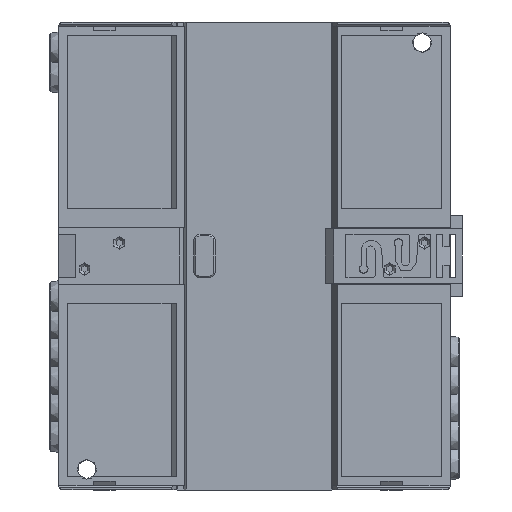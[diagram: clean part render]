
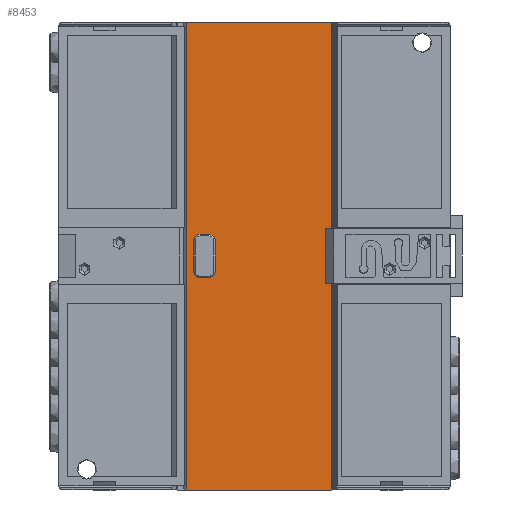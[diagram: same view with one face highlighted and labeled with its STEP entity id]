
A CAD part, left-side view. The second image highlights one B-rep face of the part: STEP entity #8453.
In plain terms, the highlighted planar face has unit normal (-1, 0, 0).
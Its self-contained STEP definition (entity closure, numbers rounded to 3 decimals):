
#702 = LINE ( 'NONE', #18866, #48369 ) ;
#5342 = LINE ( 'NONE', #15390, #67678 ) ;
#5619 = AXIS2_PLACEMENT_3D ( 'NONE', #76339, #239640, #99903 ) ;
#8453 = ADVANCED_FACE ( 'NONE', ( #180158, #296301 ), #113214, .F. ) ;
#9916 = CARTESIAN_POINT ( 'NONE',  ( 4.5, 10.5, -3.5 ) ) ;
#15390 = CARTESIAN_POINT ( 'NONE',  ( 4.5, 15.7, -53.75 ) ) ;
#15779 = CARTESIAN_POINT ( 'NONE',  ( 4.5, -17.7, -53.75 ) ) ;
#16077 = DIRECTION ( 'NONE',  ( 0., 1., 0. ) ) ;
#18253 = CARTESIAN_POINT ( 'NONE',  ( 4.5, -17.7, -53.75 ) ) ;
#18619 = EDGE_CURVE ( 'NONE', #285401, #162565, #105668, .T. ) ;
#18630 = ORIENTED_EDGE ( 'NONE', *, *, #18619, .F. ) ;
#18866 = CARTESIAN_POINT ( 'NONE',  ( 4.5, 15.7, -53.75 ) ) ;
#24207 = VECTOR ( 'NONE', #227762, 1000. ) ;
#29841 = VERTEX_POINT ( 'NONE', #159576 ) ;
#31968 = EDGE_CURVE ( 'NONE', #69812, #251356, #5342, .T. ) ;
#32379 = CARTESIAN_POINT ( 'NONE',  ( 4.5, 12.5, -3.5 ) ) ;
#33514 = DIRECTION ( 'NONE',  ( 0., -1., 0. ) ) ;
#40345 = AXIS2_PLACEMENT_3D ( 'NONE', #32379, #195991, #55927 ) ;
#41934 = CARTESIAN_POINT ( 'NONE',  ( 4.5, -17.7, -53.75 ) ) ;
#42459 = DIRECTION ( 'NONE',  ( 0., 0., 1. ) ) ;
#42489 = AXIS2_PLACEMENT_3D ( 'NONE', #113941, #112900, #112555 ) ;
#46501 = ORIENTED_EDGE ( 'NONE', *, *, #254252, .F. ) ;
#47530 = CARTESIAN_POINT ( 'NONE',  ( 4.5, 10.5, 5. ) ) ;
#47727 = VECTOR ( 'NONE', #273429, 1000. ) ;
#48369 = VECTOR ( 'NONE', #42459, 1000. ) ;
#48376 = ORIENTED_EDGE ( 'NONE', *, *, #111329, .F. ) ;
#49687 = EDGE_LOOP ( 'NONE', ( #234482, #46501, #48376, #90918, #67059, #18630, #231136, #92569 ) ) ;
#53407 = ORIENTED_EDGE ( 'NONE', *, *, #170537, .T. ) ;
#55927 = DIRECTION ( 'NONE',  ( 0., -1., 0. ) ) ;
#58058 = EDGE_CURVE ( 'NONE', #162295, #142699, #109310, .T. ) ;
#62755 = ORIENTED_EDGE ( 'NONE', *, *, #276137, .T. ) ;
#65505 = DIRECTION ( 'NONE',  ( 0., 0., 1. ) ) ;
#66964 = VERTEX_POINT ( 'NONE', #107323 ) ;
#67059 = ORIENTED_EDGE ( 'NONE', *, *, #121275, .F. ) ;
#67678 = VECTOR ( 'NONE', #16077, 1000. ) ;
#69812 = VERTEX_POINT ( 'NONE', #15779 ) ;
#75563 = CARTESIAN_POINT ( 'NONE',  ( 4.5, -17.7, 53.75 ) ) ;
#76339 = CARTESIAN_POINT ( 'NONE',  ( 4.5, 12.5, 3.5 ) ) ;
#90918 = ORIENTED_EDGE ( 'NONE', *, *, #297566, .F. ) ;
#92569 = ORIENTED_EDGE ( 'NONE', *, *, #145241, .F. ) ;
#93088 = DIRECTION ( 'NONE',  ( 0., 1., 0. ) ) ;
#99289 = LINE ( 'NONE', #256252, #277988 ) ;
#99903 = DIRECTION ( 'NONE',  ( 0., -1., 0. ) ) ;
#102249 = CARTESIAN_POINT ( 'NONE',  ( 4.5, 12.5, -5. ) ) ;
#105668 = LINE ( 'NONE', #108207, #189918 ) ;
#107323 = CARTESIAN_POINT ( 'NONE',  ( 4.5, 12.5, 5. ) ) ;
#108207 = CARTESIAN_POINT ( 'NONE',  ( 4.5, 9., -3.5 ) ) ;
#108496 = DIRECTION ( 'NONE',  ( 0., 0., 1. ) ) ;
#109310 = LINE ( 'NONE', #201665, #164235 ) ;
#111329 = EDGE_CURVE ( 'NONE', #66964, #256968, #300364, .T. ) ;
#112555 = DIRECTION ( 'NONE',  ( 0., 1., 0. ) ) ;
#112900 = DIRECTION ( 'NONE',  ( 1., 0., 0. ) ) ;
#113214 = PLANE ( 'NONE',  #42489 ) ;
#113941 = CARTESIAN_POINT ( 'NONE',  ( 4.5, 15.7, -53.75 ) ) ;
#114257 = VECTOR ( 'NONE', #65505, 1000. ) ;
#118147 = CIRCLE ( 'NONE', #40345, 1.5 ) ;
#121275 = EDGE_CURVE ( 'NONE', #162565, #259531, #274871, .T. ) ;
#122901 = DIRECTION ( 'NONE',  ( -1., 0., 0. ) ) ;
#126396 = CARTESIAN_POINT ( 'NONE',  ( 4.5, 9., 3.5 ) ) ;
#131409 = EDGE_CURVE ( 'NONE', #301976, #29841, #209298, .T. ) ;
#133922 = CARTESIAN_POINT ( 'NONE',  ( 4.5, 14., -3.5 ) ) ;
#141044 = CARTESIAN_POINT ( 'NONE',  ( 4.5, 14., 3.5 ) ) ;
#142699 = VERTEX_POINT ( 'NONE', #149917 ) ;
#144845 = ORIENTED_EDGE ( 'NONE', *, *, #131409, .T. ) ;
#145241 = EDGE_CURVE ( 'NONE', #243394, #257573, #195167, .T. ) ;
#149917 = CARTESIAN_POINT ( 'NONE',  ( 4.5, -17.7, 52.75 ) ) ;
#157615 = AXIS2_PLACEMENT_3D ( 'NONE', #262440, #122901, #285829 ) ;
#159576 = CARTESIAN_POINT ( 'NONE',  ( 4.5, 15.7, 53.75 ) ) ;
#162188 = CARTESIAN_POINT ( 'NONE',  ( 4.5, 10.5, -5. ) ) ;
#162295 = VERTEX_POINT ( 'NONE', #302219 ) ;
#162565 = VERTEX_POINT ( 'NONE', #126396 ) ;
#164235 = VECTOR ( 'NONE', #197676, 1000. ) ;
#165195 = ORIENTED_EDGE ( 'NONE', *, *, #193192, .F. ) ;
#169758 = VERTEX_POINT ( 'NONE', #171238 ) ;
#170537 = EDGE_CURVE ( 'NONE', #69812, #162295, #226828, .T. ) ;
#171238 = CARTESIAN_POINT ( 'NONE',  ( 4.5, 14., -3.5 ) ) ;
#173579 = DIRECTION ( 'NONE',  ( -1., 0., 0. ) ) ;
#173646 = DIRECTION ( 'NONE',  ( 0., 1., 0. ) ) ;
#180158 = FACE_OUTER_BOUND ( 'NONE', #265569, .T. ) ;
#181012 = AXIS2_PLACEMENT_3D ( 'NONE', #9916, #173579, #33514 ) ;
#189918 = VECTOR ( 'NONE', #108496, 1000. ) ;
#192841 = EDGE_CURVE ( 'NONE', #169758, #243394, #118147, .T. ) ;
#193192 = EDGE_CURVE ( 'NONE', #251356, #29841, #702, .T. ) ;
#194726 = VECTOR ( 'NONE', #173646, 1000. ) ;
#195167 = LINE ( 'NONE', #102249, #242345 ) ;
#195991 = DIRECTION ( 'NONE',  ( -1., 0., 0. ) ) ;
#196152 = CARTESIAN_POINT ( 'NONE',  ( 4.5, 15.7, 53.75 ) ) ;
#197676 = DIRECTION ( 'NONE',  ( 0., 0., 1. ) ) ;
#198234 = ORIENTED_EDGE ( 'NONE', *, *, #58058, .T. ) ;
#201665 = CARTESIAN_POINT ( 'NONE',  ( 4.5, -17.7, -53.75 ) ) ;
#209298 = LINE ( 'NONE', #196152, #194726 ) ;
#226828 = LINE ( 'NONE', #18253, #47727 ) ;
#227762 = DIRECTION ( 'NONE',  ( 0., 0., -1. ) ) ;
#229684 = EDGE_CURVE ( 'NONE', #257573, #285401, #282054, .T. ) ;
#231136 = ORIENTED_EDGE ( 'NONE', *, *, #229684, .F. ) ;
#234482 = ORIENTED_EDGE ( 'NONE', *, *, #192841, .F. ) ;
#239640 = DIRECTION ( 'NONE',  ( -1., 0., 0. ) ) ;
#242345 = VECTOR ( 'NONE', #288622, 1000. ) ;
#243394 = VERTEX_POINT ( 'NONE', #288300 ) ;
#251356 = VERTEX_POINT ( 'NONE', #265608 ) ;
#254252 = EDGE_CURVE ( 'NONE', #256968, #169758, #279877, .T. ) ;
#256252 = CARTESIAN_POINT ( 'NONE',  ( 4.5, 12.5, 5. ) ) ;
#256968 = VERTEX_POINT ( 'NONE', #141044 ) ;
#257573 = VERTEX_POINT ( 'NONE', #162188 ) ;
#259531 = VERTEX_POINT ( 'NONE', #47530 ) ;
#259549 = ORIENTED_EDGE ( 'NONE', *, *, #31968, .F. ) ;
#262440 = CARTESIAN_POINT ( 'NONE',  ( 4.5, 10.5, 3.5 ) ) ;
#265569 = EDGE_LOOP ( 'NONE', ( #144845, #165195, #259549, #53407, #198234, #62755 ) ) ;
#265608 = CARTESIAN_POINT ( 'NONE',  ( 4.5, 15.7, -53.75 ) ) ;
#266704 = CARTESIAN_POINT ( 'NONE',  ( 4.5, 9., -3.5 ) ) ;
#273429 = DIRECTION ( 'NONE',  ( 0., 0., 1. ) ) ;
#274871 = CIRCLE ( 'NONE', #157615, 1.5 ) ;
#276137 = EDGE_CURVE ( 'NONE', #142699, #301976, #299734, .T. ) ;
#277988 = VECTOR ( 'NONE', #93088, 1000. ) ;
#279877 = LINE ( 'NONE', #133922, #24207 ) ;
#282054 = CIRCLE ( 'NONE', #181012, 1.5 ) ;
#285401 = VERTEX_POINT ( 'NONE', #266704 ) ;
#285829 = DIRECTION ( 'NONE',  ( 0., -1., 0. ) ) ;
#288300 = CARTESIAN_POINT ( 'NONE',  ( 4.5, 12.5, -5. ) ) ;
#288622 = DIRECTION ( 'NONE',  ( 0., -1., 0. ) ) ;
#296301 = FACE_BOUND ( 'NONE', #49687, .T. ) ;
#297566 = EDGE_CURVE ( 'NONE', #259531, #66964, #99289, .T. ) ;
#299734 = LINE ( 'NONE', #41934, #114257 ) ;
#300364 = CIRCLE ( 'NONE', #5619, 1.5 ) ;
#301976 = VERTEX_POINT ( 'NONE', #75563 ) ;
#302219 = CARTESIAN_POINT ( 'NONE',  ( 4.5, -17.7, -52.75 ) ) ;
